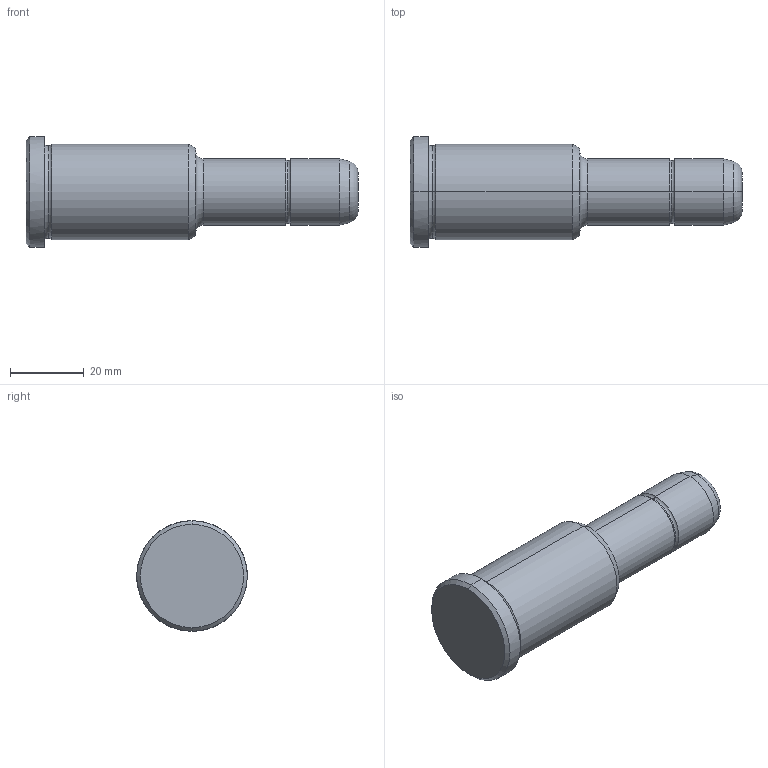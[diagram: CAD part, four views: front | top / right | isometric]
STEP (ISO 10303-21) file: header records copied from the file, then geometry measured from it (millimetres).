
FILE_DESCRIPTION(('CATIA V5 STEP Exchange'),'2;1');
FILE_NAME('C:\Users\Utente\Desktop\IO LAVORO\3D X SITO CF\X SITO\PLASTICA\351\351-18X46X90.stp','2021-08-19T12:38:17+00:00',('none'),('none'),'CATIA Version 5 Release 20 GA (IN-10)','CATIA V5 STEP AP203','none');
FILE_SCHEMA(('CONFIG_CONTROL_DESIGN'));
Length unit declared in the file: millimetre
Products named in the file (1): 351-18X46X90
Bounding box: 90 x 30 x 30 mm (x, y, z)
Volume: 36098.2 mm3; surface area: 7470.7 mm2
Topology: 1 solids, 1 shells, 30 faces, 86 edges, 60 vertices
Faces by surface type: torus 12, cylinder 8, cone 6, plane 4
Entity records: 1112 total; most frequent: CARTESIAN_POINT 289, ORIENTED_EDGE 172, DIRECTION 138, AXIS2_PLACEMENT_3D 95, EDGE_CURVE 86, CIRCLE 64, VERTEX_POINT 60, EDGE_LOOP 32
